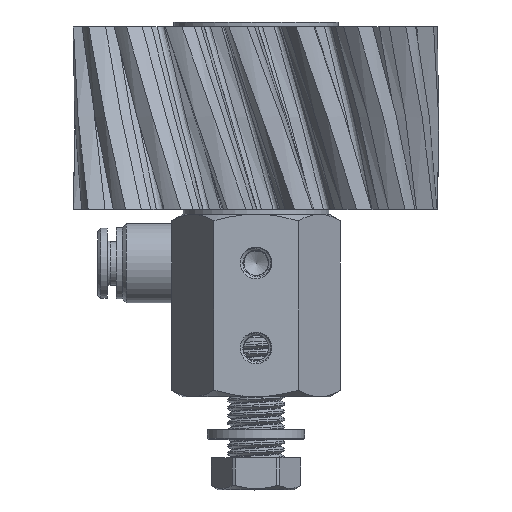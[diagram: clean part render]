
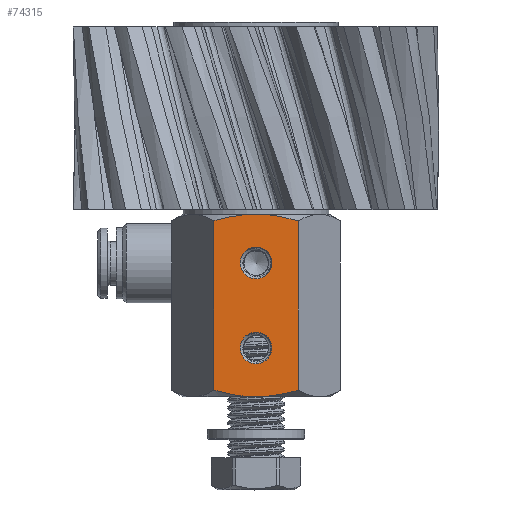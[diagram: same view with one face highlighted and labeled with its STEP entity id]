
A CAD part, top view. The second image highlights one B-rep face of the part: STEP entity #74315.
In plain terms, the highlighted planar face has unit normal (0, 0, 1).
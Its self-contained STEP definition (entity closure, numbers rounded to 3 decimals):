
#1717 = VERTEX_POINT ( 'NONE', #40376 ) ;
#1834 = EDGE_LOOP ( 'NONE', ( #12796 ) ) ;
#2930 = VERTEX_POINT ( 'NONE', #3948 ) ;
#3442 = ORIENTED_EDGE ( 'NONE', *, *, #25086, .T. ) ;
#3478 = DIRECTION ( 'NONE',  ( 0., 0., -1. ) ) ;
#3948 = CARTESIAN_POINT ( 'NONE',  ( -6.928, 28.928, 12. ) ) ;
#4085 = CIRCLE ( 'NONE', #76021, 2.6 ) ;
#4810 = CARTESIAN_POINT ( 'NONE',  ( -5.801, 29.254, 12. ) ) ;
#5160 = CARTESIAN_POINT ( 'NONE',  ( -6.928, 1.072, 12. ) ) ;
#6013 = CARTESIAN_POINT ( 'NONE',  ( -2.353, 29.876, 12. ) ) ;
#10947 = CARTESIAN_POINT ( 'NONE',  ( -0.593, 30., 12. ) ) ;
#11187 = ORIENTED_EDGE ( 'NONE', *, *, #59741, .T. ) ;
#11339 = CARTESIAN_POINT ( 'NONE',  ( -2.933, 29.803, 12. ) ) ;
#12269 = DIRECTION ( 'NONE',  ( 0., -1., 0. ) ) ;
#12796 = ORIENTED_EDGE ( 'NONE', *, *, #24811, .F. ) ;
#13290 = ORIENTED_EDGE ( 'NONE', *, *, #68857, .T. ) ;
#13540 = EDGE_CURVE ( 'NONE', #46612, #2930, #47575, .T. ) ;
#14146 = FACE_BOUND ( 'NONE', #1834, .T. ) ;
#20279 = CARTESIAN_POINT ( 'NONE',  ( 0.593, 0., 12. ) ) ;
#21084 = CARTESIAN_POINT ( 'NONE',  ( 2.933, 0.197, 12. ) ) ;
#21477 = CARTESIAN_POINT ( 'NONE',  ( 6.928, 28.928, 12. ) ) ;
#22394 = DIRECTION ( 'NONE',  ( 0., -1., 0. ) ) ;
#22683 = DIRECTION ( 'NONE',  ( -1., 0., 0. ) ) ;
#23353 = B_SPLINE_CURVE_WITH_KNOTS ( 'NONE', 3,
 ( #76408, #20279, #77195, #57955, #21084, #26837, #51809, #39938 ),
 .UNSPECIFIED., .F., .F.,
 ( 4, 2, 2, 4 ),
 ( 0.022, 0.024, 0.026, 0.029 ),
 .UNSPECIFIED. ) ;
#23778 = CARTESIAN_POINT ( 'NONE',  ( 6.928, 28.928, 12. ) ) ;
#23955 = CARTESIAN_POINT ( 'NONE',  ( -2.354, 0.103, 12. ) ) ;
#24811 = EDGE_CURVE ( 'NONE', #31498, #31498, #47228, .T. ) ;
#25086 = EDGE_CURVE ( 'NONE', #26166, #26166, #4085, .T. ) ;
#25762 = CARTESIAN_POINT ( 'NONE',  ( -2.6, 22., 12. ) ) ;
#26025 = CARTESIAN_POINT ( 'NONE',  ( 6.928, 30., 12. ) ) ;
#26144 = LINE ( 'NONE', #31476, #30989 ) ;
#26166 = VERTEX_POINT ( 'NONE', #25762 ) ;
#26837 = CARTESIAN_POINT ( 'NONE',  ( 4.663, 0.477, 12. ) ) ;
#28687 = ORIENTED_EDGE ( 'NONE', *, *, #59594, .T. ) ;
#30107 = CARTESIAN_POINT ( 'NONE',  ( -4.661, 0.477, 12. ) ) ;
#30989 = VECTOR ( 'NONE', #12269, 1000. ) ;
#31476 = CARTESIAN_POINT ( 'NONE',  ( -6.928, 30., 12. ) ) ;
#31498 = VERTEX_POINT ( 'NONE', #63382 ) ;
#32656 = DIRECTION ( 'NONE',  ( 0., 0., 1. ) ) ;
#33737 = EDGE_LOOP ( 'NONE', ( #28687, #50278, #13290, #50930, #11187, #69552 ) ) ;
#34175 = CARTESIAN_POINT ( 'NONE',  ( 5.8, 29.254, 12. ) ) ;
#35130 = B_SPLINE_CURVE_WITH_KNOTS ( 'NONE', 3,
 ( #21477, #34175, #76804, #45254, #64854, #46451 ),
 .UNSPECIFIED., .F., .F.,
 ( 4, 2, 4 ),
 ( 0.015, 0.019, 0.022 ),
 .UNSPECIFIED. ) ;
#39938 = CARTESIAN_POINT ( 'NONE',  ( 6.928, 1.072, 12. ) ) ;
#40376 = CARTESIAN_POINT ( 'NONE',  ( 0., 0., 12. ) ) ;
#40843 = CARTESIAN_POINT ( 'NONE',  ( 6.928, 30., 12. ) ) ;
#41517 = CARTESIAN_POINT ( 'NONE',  ( 0., 22., 12. ) ) ;
#41753 = CARTESIAN_POINT ( 'NONE',  ( -6.928, 1.072, 12. ) ) ;
#42786 = CARTESIAN_POINT ( 'NONE',  ( -1.186, 0., 12. ) ) ;
#44857 = FACE_OUTER_BOUND ( 'NONE', #33737, .T. ) ;
#45254 = CARTESIAN_POINT ( 'NONE',  ( 2.354, 29.897, 12. ) ) ;
#46451 = CARTESIAN_POINT ( 'NONE',  ( 0., 30., 12. ) ) ;
#46612 = VERTEX_POINT ( 'NONE', #79855 ) ;
#47228 = CIRCLE ( 'NONE', #72067, 2.6 ) ;
#47575 = B_SPLINE_CURVE_WITH_KNOTS ( 'NONE', 3,
 ( #73557, #10947, #60850, #6013, #11339, #73955, #4810, #61654 ),
 .UNSPECIFIED., .F., .F.,
 ( 4, 2, 2, 4 ),
 ( 0.022, 0.024, 0.026, 0.029 ),
 .UNSPECIFIED. ) ;
#48138 = CARTESIAN_POINT ( 'NONE',  ( 6.928, 1.072, 12. ) ) ;
#49419 = VERTEX_POINT ( 'NONE', #23778 ) ;
#50278 = ORIENTED_EDGE ( 'NONE', *, *, #13540, .T. ) ;
#50595 = FACE_BOUND ( 'NONE', #72395, .T. ) ;
#50930 = ORIENTED_EDGE ( 'NONE', *, *, #61632, .T. ) ;
#51809 = CARTESIAN_POINT ( 'NONE',  ( 5.801, 0.746, 12. ) ) ;
#52234 = VERTEX_POINT ( 'NONE', #48138 ) ;
#52316 = LINE ( 'NONE', #40843, #60036 ) ;
#56336 = PLANE ( 'NONE',  #59198 ) ;
#56420 = CARTESIAN_POINT ( 'NONE',  ( 0., 8., 12. ) ) ;
#56823 = DIRECTION ( 'NONE',  ( 1., 0., 0. ) ) ;
#57955 = CARTESIAN_POINT ( 'NONE',  ( 2.353, 0.124, 12. ) ) ;
#59198 = AXIS2_PLACEMENT_3D ( 'NONE', #26025, #69812, #69403 ) ;
#59594 = EDGE_CURVE ( 'NONE', #49419, #46612, #35130, .T. ) ;
#59741 = EDGE_CURVE ( 'NONE', #1717, #52234, #23353, .T. ) ;
#60036 = VECTOR ( 'NONE', #22394, 1000. ) ;
#60203 = EDGE_CURVE ( 'NONE', #49419, #52234, #52316, .T. ) ;
#60850 = CARTESIAN_POINT ( 'NONE',  ( -1.183, 29.974, 12. ) ) ;
#61360 = B_SPLINE_CURVE_WITH_KNOTS ( 'NONE', 3,
 ( #5160, #62017, #30107, #23955, #42786, #68565 ),
 .UNSPECIFIED., .F., .F.,
 ( 4, 2, 4 ),
 ( 0.015, 0.019, 0.022 ),
 .UNSPECIFIED. ) ;
#61632 = EDGE_CURVE ( 'NONE', #66420, #1717, #61360, .T. ) ;
#61654 = CARTESIAN_POINT ( 'NONE',  ( -6.928, 28.928, 12. ) ) ;
#62017 = CARTESIAN_POINT ( 'NONE',  ( -5.8, 0.746, 12. ) ) ;
#63382 = CARTESIAN_POINT ( 'NONE',  ( 2.6, 8., 12. ) ) ;
#64854 = CARTESIAN_POINT ( 'NONE',  ( 1.186, 30., 12. ) ) ;
#66420 = VERTEX_POINT ( 'NONE', #41753 ) ;
#68565 = CARTESIAN_POINT ( 'NONE',  ( 0., 0., 12. ) ) ;
#68857 = EDGE_CURVE ( 'NONE', #2930, #66420, #26144, .T. ) ;
#69403 = DIRECTION ( 'NONE',  ( 1., 0., 0. ) ) ;
#69552 = ORIENTED_EDGE ( 'NONE', *, *, #60203, .F. ) ;
#69812 = DIRECTION ( 'NONE',  ( 0., 0., 1. ) ) ;
#72067 = AXIS2_PLACEMENT_3D ( 'NONE', #56420, #32656, #56823 ) ;
#72395 = EDGE_LOOP ( 'NONE', ( #3442 ) ) ;
#73557 = CARTESIAN_POINT ( 'NONE',  ( 0., 30., 12. ) ) ;
#73955 = CARTESIAN_POINT ( 'NONE',  ( -4.663, 29.523, 12. ) ) ;
#74315 = ADVANCED_FACE ( 'NONE', ( #14146, #50595, #44857 ), #56336, .T. ) ;
#76021 = AXIS2_PLACEMENT_3D ( 'NONE', #41517, #3478, #22683 ) ;
#76408 = CARTESIAN_POINT ( 'NONE',  ( 0., 0., 12. ) ) ;
#76804 = CARTESIAN_POINT ( 'NONE',  ( 4.661, 29.523, 12. ) ) ;
#77195 = CARTESIAN_POINT ( 'NONE',  ( 1.183, 0.026, 12. ) ) ;
#79855 = CARTESIAN_POINT ( 'NONE',  ( 0., 30., 12. ) ) ;
